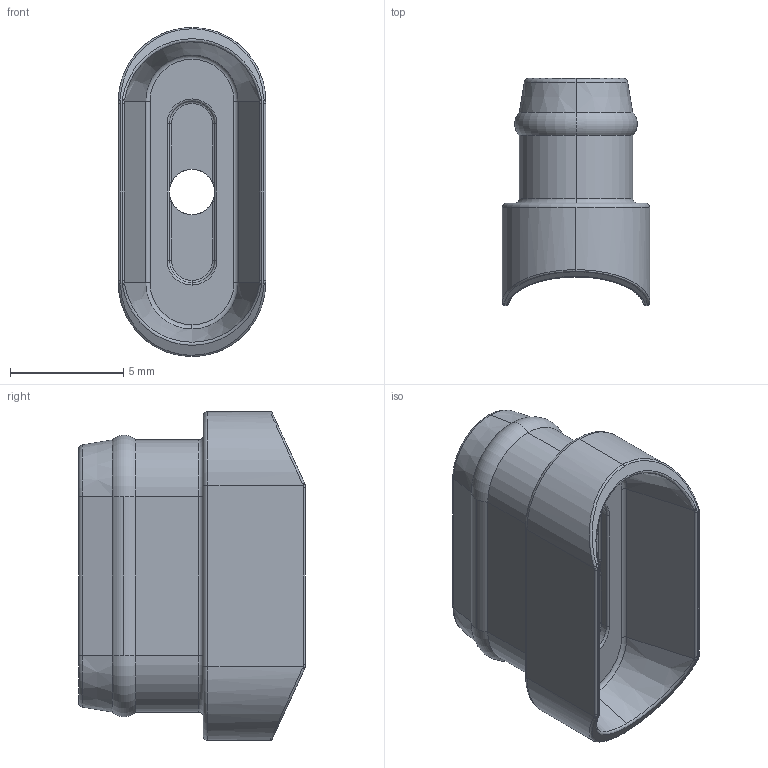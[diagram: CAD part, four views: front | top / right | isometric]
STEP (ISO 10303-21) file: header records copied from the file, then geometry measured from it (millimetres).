
FILE_DESCRIPTION (( 'STEP AP203' ), '1' );
FILE_NAME ('4_14--A_AM_(ind_A).STEP', '2016-07-01T09:43:49', ( '' ), ( '' ), 'SwSTEP 2.0', 'SolidWorks 2016', '' );
FILE_SCHEMA (( 'CONFIG_CONTROL_DESIGN' ));
Length unit declared in the file: millimetre
Products named in the file (1): 4_14--A_AM_(ind_A)
Bounding box: 6.5 x 10 x 14.5 mm (x, y, z)
Volume: 439.6 mm3; surface area: 576.2 mm2
Topology: 1 solids, 1 shells, 118 faces, 270 edges, 150 vertices
Faces by surface type: cylinder 38, torus 28, plane 23, bspline 22, cone 7
Entity records: 3749 total; most frequent: CARTESIAN_POINT 1138, DIRECTION 558, ORIENTED_EDGE 532, EDGE_CURVE 266, AXIS2_PLACEMENT_3D 236, VERTEX_POINT 150, CIRCLE 139, EDGE_LOOP 120
